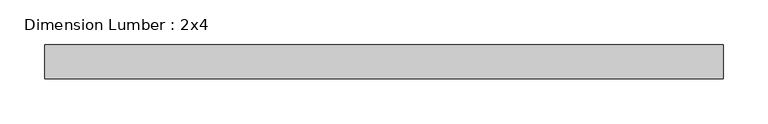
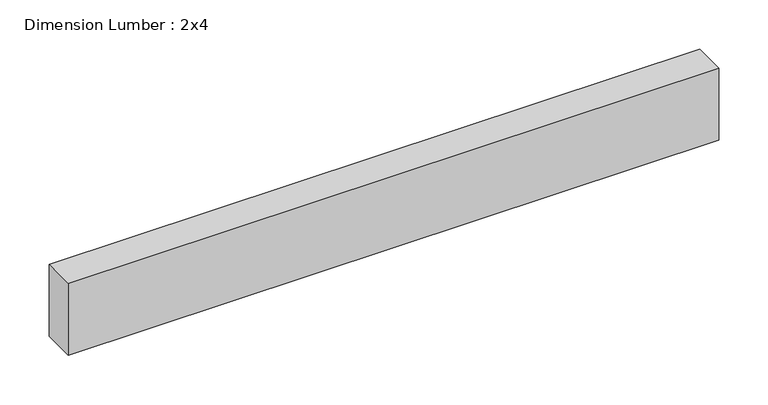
"""IFC4 building model written with IfcOpenShell, lengths in millimetres: beam geometry, Dimension Lumber : 2x4."""

from ifc_helpers import new_model, si_unit, frame, origin, place, context, project, spatial, polyline, outline, extrude, source, transform, mapped, element, save


def dimension_lumber_2x4_67b32cb9(model_context):
    return source(origin(), model_context, "Body", "SweptSolid", [
        extrude(outline(polyline([(379.1523716, 19.05), (379.1523716, -19.05), (-379.1523716, -19.05), (-379.1523716, 19.05), (379.1523716, 19.05)])), frame((0.0, 0.0, -44.45), z_axis=(0.0, 0.0, 1.0), x_axis=(1.0, 0.0, 0.0)), (0.0, 0.0, 1.0), 88.9),
    ])


if __name__ == "__main__":
    model = new_model("IFC4")
    model_context = context("Model", 3, world=origin())
    ifc_project = project(units=[si_unit("LENGTHUNIT", "METRE", prefix="MILLI")], contexts=[model_context])
    site = spatial("IfcSite", under=ifc_project)
    building = spatial("IfcBuilding", under=site)
    placement = place(None, origin())
    dimension_lumber_2x4_shape = dimension_lumber_2x4_67b32cb9(model_context)
    element("IfcBeam", 1, ObjectType="Dimension Lumber : 2x4", at=placement, inside=building, context=model_context, shape_type="MappedRepresentation", body=[
        mapped(dimension_lumber_2x4_shape, transform((0.0, 0.0, 0.0), x_axis=(1.0, 0.0, 0.0), y_axis=(0.0, 1.0, 0.0), z_axis=(0.0, 0.0, 1.0))),
    ])
    save(model, "model.ifc")
